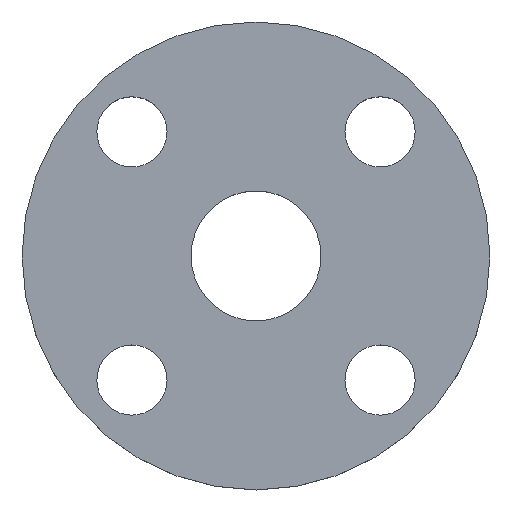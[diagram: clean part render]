
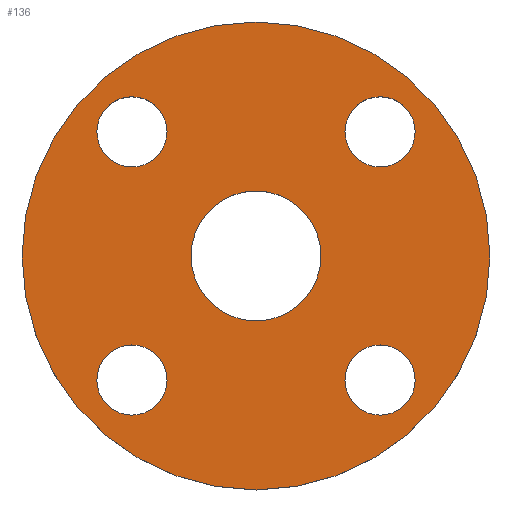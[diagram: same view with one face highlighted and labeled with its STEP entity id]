
A CAD part, top view. The second image highlights one B-rep face of the part: STEP entity #136.
In plain terms, the highlighted planar face has unit normal (0, 0, 1).
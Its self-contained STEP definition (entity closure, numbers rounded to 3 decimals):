
#14=PLANE($,#159);
#27=FACE_BOUND($,#57,.T.);
#28=FACE_BOUND($,#58,.T.);
#29=FACE_BOUND($,#59,.T.);
#30=FACE_BOUND($,#60,.T.);
#31=FACE_BOUND($,#61,.T.);
#32=FACE_BOUND($,#62,.T.);
#57=EDGE_LOOP($,(#117));
#58=EDGE_LOOP($,(#118));
#59=EDGE_LOOP($,(#119));
#60=EDGE_LOOP($,(#120));
#61=EDGE_LOOP($,(#121));
#62=EDGE_LOOP($,(#122));
#64=CIRCLE($,#142,6.);
#66=CIRCLE($,#145,6.);
#68=CIRCLE($,#148,6.);
#70=CIRCLE($,#151,6.);
#71=CIRCLE($,#153,11.1);
#73=CIRCLE($,#156,40.);
#76=VERTEX_POINT($,#206);
#78=VERTEX_POINT($,#211);
#80=VERTEX_POINT($,#216);
#82=VERTEX_POINT($,#221);
#83=VERTEX_POINT($,#224);
#85=VERTEX_POINT($,#229);
#88=EDGE_CURVE($,#76,#76,#64,.T.);
#90=EDGE_CURVE($,#78,#78,#66,.T.);
#92=EDGE_CURVE($,#80,#80,#68,.T.);
#94=EDGE_CURVE($,#82,#82,#70,.T.);
#95=EDGE_CURVE($,#83,#83,#71,.T.);
#97=EDGE_CURVE($,#85,#85,#73,.T.);
#117=ORIENTED_EDGE($,*,*,#88,.T.);
#118=ORIENTED_EDGE($,*,*,#90,.T.);
#119=ORIENTED_EDGE($,*,*,#92,.T.);
#120=ORIENTED_EDGE($,*,*,#94,.T.);
#121=ORIENTED_EDGE($,*,*,#95,.T.);
#122=ORIENTED_EDGE($,*,*,#97,.T.);
#136=ADVANCED_FACE($,(#27,#28,#29,#30,#31,#32),#14,.T.);
#142=AXIS2_PLACEMENT_3D($,#207,#166,#167);
#145=AXIS2_PLACEMENT_3D($,#212,#172,#173);
#148=AXIS2_PLACEMENT_3D($,#217,#178,#179);
#151=AXIS2_PLACEMENT_3D($,#222,#184,#185);
#153=AXIS2_PLACEMENT_3D($,#225,#188,#189);
#156=AXIS2_PLACEMENT_3D($,#230,#194,#195);
#159=AXIS2_PLACEMENT_3D($,#234,#200,#201);
#166=DIRECTION('center_axis',(0.,0.,-1.));
#167=DIRECTION('ref_axis',(0.,1.,0.));
#172=DIRECTION('center_axis',(0.,0.,-1.));
#173=DIRECTION('ref_axis',(1.,0.,0.));
#178=DIRECTION('center_axis',(0.,0.,-1.));
#179=DIRECTION('ref_axis',(0.,-1.,0.));
#184=DIRECTION('center_axis',(0.,0.,-1.));
#185=DIRECTION('ref_axis',(-1.,0.,0.));
#188=DIRECTION('center_axis',(0.,0.,-1.));
#189=DIRECTION('ref_axis',(-1.,0.,0.));
#194=DIRECTION('center_axis',(0.,0.,1.));
#195=DIRECTION('ref_axis',(-1.,0.,0.));
#200=DIRECTION('center_axis',(0.,0.,1.));
#201=DIRECTION('ref_axis',(1.,0.,0.));
#206=CARTESIAN_POINT('',(21.213,15.213,9.));
#207=CARTESIAN_POINT('Origin',(21.213,21.213,9.));
#211=CARTESIAN_POINT('',(15.213,-21.213,9.));
#212=CARTESIAN_POINT('Origin',(21.213,-21.213,9.));
#216=CARTESIAN_POINT('',(-21.213,-15.213,9.));
#217=CARTESIAN_POINT('Origin',(-21.213,-21.213,9.));
#221=CARTESIAN_POINT('',(-15.213,21.213,9.));
#222=CARTESIAN_POINT('Origin',(-21.213,21.213,9.));
#224=CARTESIAN_POINT('',(11.1,0.,9.));
#225=CARTESIAN_POINT('Origin',(0.,0.,9.));
#229=CARTESIAN_POINT('',(40.,0.,9.));
#230=CARTESIAN_POINT('Origin',(0.,0.,9.));
#234=CARTESIAN_POINT('Origin',(0.,0.,
9.));
